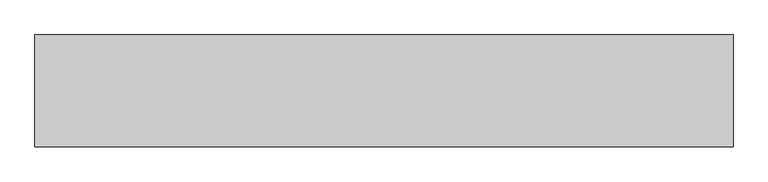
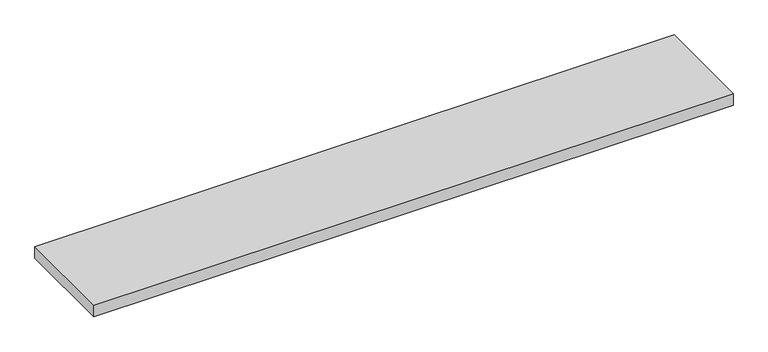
"""IFC4 building model written with IfcOpenShell, lengths in millimetres: proxy geometry, AK_アルミ足場板 AL-1.5_軽 : AK_アルミ足場板 AL-1.5_軽."""

import ifcopenshell
import ifcopenshell.guid

model = None  # the IFC model being written
_history = None  # IfcOwnerHistory: only IFC2X3 demands one
_inside = {}  # id of a spatial element -> (the spatial element, [elements in it])
_under = {}  # id of a project, library or spatial element -> (it, [spatial elements below it])
_declared = {}  # id of a project -> (the project, [libraries it declares])
_typed = {}  # id of a type object -> (the type object, [elements of that type])
_made_of = {}  # id of a material, layer set ... -> (it, [elements and type objects made of it])


def new_model(schema):
    """Start an empty IFC model of exactly this schema.

    Asked for "IFC4X3", IfcOpenShell would pick the latest addendum, in which some entities
    have other attributes; the version numbers below select the first issue.
    IFC2X3 requires an IfcOwnerHistory on every rooted entity: one is made here for all.
    """
    global model, _history
    if schema == "IFC4X3":
        model = ifcopenshell.file(schema_version=(4, 3, 0, 0))
    else:
        model = ifcopenshell.file(schema=schema)
    _inside.clear()
    _under.clear()
    _declared.clear()
    _typed.clear()
    _made_of.clear()
    _history = None
    if model.schema == "IFC2X3":
        org = make("IfcOrganization", Name="unknown")
        user = make(
            "IfcPersonAndOrganization",
            ThePerson=make("IfcPerson", FamilyName="unknown"),
            TheOrganization=org,
        )
        app = make(
            "IfcApplication",
            ApplicationDeveloper=org,
            Version="unknown",
            ApplicationFullName="unknown",
            ApplicationIdentifier="unknown",
        )
        _history = make(
            "IfcOwnerHistory",
            OwningUser=user,
            OwningApplication=app,
            ChangeAction="ADDED",
            CreationDate=0,
        )
    return model


def make(cls, **values):
    """One entity of the class cls with the attributes given. An attribute that is None is left unset."""
    return model.create_entity(
        cls, **{name: value for name, value in values.items() if value is not None}
    )


def rooted(cls, **values):
    """An entity with a GlobalId (a new one), such as an element, a storey or a relation."""
    return make(cls, GlobalId=ifcopenshell.guid.new(), OwnerHistory=_history, **values)


def si_unit(unit_type, name, prefix=None):
    """IfcSIUnit, for example si_unit("LENGTHUNIT", "METRE", prefix="MILLI")."""
    return make("IfcSIUnit", UnitType=unit_type, Prefix=prefix, Name=name)


def assignment(units):
    """IfcUnitAssignment: the units of a project."""
    return None if units is None else make("IfcUnitAssignment", Units=units)


def point(xyz):
    """IfcCartesianPoint."""
    return None if xyz is None else make("IfcCartesianPoint", Coordinates=xyz)


def direction(xyz):
    """IfcDirection."""
    return None if xyz is None else make("IfcDirection", DirectionRatios=xyz)


def frame(location, z_axis=None, x_axis=None):
    """IfcAxis2Placement3D, a coordinate frame: its origin and axes. An axis left out is left unset."""
    return make(
        "IfcAxis2Placement3D",
        Location=point(location),
        Axis=direction(z_axis),
        RefDirection=direction(x_axis),
    )


def origin():
    """The frame at (0, 0, 0) with its axes left unset."""
    return frame((0.0, 0.0, 0.0))


def origin_with_axes():
    """The frame at (0, 0, 0) with the z axis (0, 0, 1) and the x axis (1, 0, 0) written out."""
    return frame((0.0, 0.0, 0.0), z_axis=(0.0, 0.0, 1.0), x_axis=(1.0, 0.0, 0.0))


def place(relative_to, where):
    """IfcLocalPlacement: puts the frame where relative to a parent placement (None: the world)."""
    return make(
        "IfcLocalPlacement", PlacementRelTo=relative_to, RelativePlacement=where
    )


def context(
    kind, dimensions, precision=None, world=None, true_north=None, identifier=None
):
    """IfcGeometricRepresentationContext, for example the 3D "Model" context."""
    return make(
        "IfcGeometricRepresentationContext",
        ContextIdentifier=identifier,
        ContextType=kind,
        CoordinateSpaceDimension=dimensions,
        Precision=precision,
        WorldCoordinateSystem=world,
        TrueNorth=true_north,
    )


def project(units=None, contexts=None):
    """IfcProject with its units and contexts."""
    return rooted(
        "IfcProject",
        Name="project",
        RepresentationContexts=contexts,
        UnitsInContext=assignment(units),
    )


def spatial(cls, under=None, at=None, **own):
    """A site, building, storey or space (cls), placed at a placement, below another one or the project."""
    s = rooted(cls, ObjectPlacement=at, **own)
    if under is not None:
        _under.setdefault(under.id(), (under, []))[1].append(s)
    return s


def polyline(points):
    """IfcPolyline through the points."""
    return make("IfcPolyline", Points=[point(p) for p in points])


def outline(outer, holes=None, kind="AREA"):
    """IfcArbitraryClosedProfileDef: a profile drawn as a closed curve; with holes, ...WithVoids."""
    if holes is None:
        return make("IfcArbitraryClosedProfileDef", ProfileType=kind, OuterCurve=outer)
    return make(
        "IfcArbitraryProfileDefWithVoids",
        ProfileType=kind,
        OuterCurve=outer,
        InnerCurves=holes,
    )


def extrude(swept, where, along, depth):
    """IfcExtrudedAreaSolid: the profile swept, set in the frame where, extruded along a direction by depth."""
    return make(
        "IfcExtrudedAreaSolid",
        SweptArea=swept,
        Position=where,
        ExtrudedDirection=direction(along),
        Depth=depth,
    )


def shape(context_of_items, identifier, shape_type, items):
    """IfcShapeRepresentation: the items that make up one representation, for example the "Body"."""
    return make(
        "IfcShapeRepresentation",
        ContextOfItems=context_of_items,
        RepresentationIdentifier=identifier,
        RepresentationType=shape_type,
        Items=items,
    )


def source(mapping_origin, context_of_items, identifier, shape_type, items):
    """IfcRepresentationMap: a shape defined once, which mapped items show again and again."""
    return make(
        "IfcRepresentationMap",
        MappingOrigin=mapping_origin,
        MappedRepresentation=shape(context_of_items, identifier, shape_type, items),
    )


def transform(
    local_origin,
    x_axis=None,
    y_axis=None,
    z_axis=None,
    scale=None,
    scale2=None,
    scale3=None,
    uniform=True,
):
    """IfcCartesianTransformationOperator3D, or its non-uniform kind. x_axis, y_axis, z_axis: its Axis1, 2, 3."""
    if uniform:
        return make(
            "IfcCartesianTransformationOperator3D",
            Axis1=direction(x_axis),
            Axis2=direction(y_axis),
            LocalOrigin=point(local_origin),
            Scale=scale,
            Axis3=direction(z_axis),
        )
    return make(
        "IfcCartesianTransformationOperator3DnonUniform",
        Axis1=direction(x_axis),
        Axis2=direction(y_axis),
        LocalOrigin=point(local_origin),
        Scale=scale,
        Axis3=direction(z_axis),
        Scale2=scale2,
        Scale3=scale3,
    )


def mapped(mapping_source, mapping_target):
    """IfcMappedItem: shows the shape of a source again, moved by a transform."""
    return make(
        "IfcMappedItem", MappingSource=mapping_source, MappingTarget=mapping_target
    )


def made_of(thing, what):
    """Note that an element or type object is made of a material, layer set ...; save() writes the relation."""
    if what is not None:
        _made_of.setdefault(what.id(), (what, []))[1].append(thing)
    return thing


def element(
    cls,
    number,
    at=None,
    inside=None,
    cuts=None,
    type_object=None,
    material=None,
    context=None,
    identifier="Body",
    shape_type=None,
    held_by="IfcProductDefinitionShape",
    body=None,
    shapes=None,
    **own,
):
    """One element of the class cls, such as IfcWall. Its Tag is "e" and its number.

    at: its placement. inside: the storey or other place that contains it. cuts: it is an
    opening in that element (IfcRelVoidsElement). A single representation is given by context,
    identifier, shape_type and body (its items); several are given by shapes. held_by: the class
    of the entity that holds the representations. save() writes the other relations.
    """
    e = rooted(cls, Tag="e%d" % number, ObjectPlacement=at, **own)
    if body is not None:
        shapes = [shape(context, identifier, shape_type, body)]
    if shapes is not None:
        e.Representation = make(held_by, Representations=shapes)
    if inside is not None:
        _inside.setdefault(inside.id(), (inside, []))[1].append(e)
    if cuts is not None:
        rooted(
            "IfcRelVoidsElement", RelatingBuildingElement=cuts, RelatedOpeningElement=e
        )
    if type_object is not None:
        _typed.setdefault(type_object.id(), (type_object, []))[1].append(e)
    return made_of(e, material)


def aggregate(whole, parts):
    """IfcRelAggregates: a whole, such as a stair, and the parts it consists of."""
    return rooted("IfcRelAggregates", RelatingObject=whole, RelatedObjects=parts)


def save(model, path):
    """Write the relations noted so far, then the file.

    IfcRelAggregates (storeys below a building ...), IfcRelContainedInSpatialStructure (elements
    in a storey), IfcRelDefinesByType, IfcRelAssociatesMaterial and IfcRelDeclares: one each for
    every whole, place, type object, material and project.
    """
    for whole, parts in _under.values():
        aggregate(whole, parts)
    for where, things in _inside.values():
        rooted(
            "IfcRelContainedInSpatialStructure",
            RelatedElements=things,
            RelatingStructure=where,
        )
    for kind, things in _typed.values():
        rooted("IfcRelDefinesByType", RelatedObjects=things, RelatingType=kind)
    for what, things in _made_of.values():
        rooted("IfcRelAssociatesMaterial", RelatedObjects=things, RelatingMaterial=what)
    for by, libraries in _declared.values():
        rooted("IfcRelDeclares", RelatingContext=by, RelatedDefinitions=libraries)
    model.write(path)


def generic_models_31d243a7(model_context):
    return source(origin(), model_context, "Body", "SweptSolid", [
        extrude(outline(polyline([(1500.0, 240.0), (1500.0, 0.0157988), (0.0, 0.0157988), (0.0, 240.0), (1500.0, 240.0)])), origin_with_axes(), (0.0, 0.0, 1.0), 29.0),
    ])


if __name__ == "__main__":
    model = new_model("IFC4")
    model_context = context("Model", 3, world=origin())
    ifc_project = project(units=[si_unit("LENGTHUNIT", "METRE", prefix="MILLI")], contexts=[model_context])
    site = spatial("IfcSite", under=ifc_project)
    building = spatial("IfcBuilding", under=site)
    placement = place(None, origin())
    generic_models_shape = generic_models_31d243a7(model_context)
    element("IfcBuildingElementProxy", 1, Name="AK_アルミ足場板 AL-1.5_軽 : AK_アルミ足場板 AL-1.5_軽", ObjectType="AK_アルミ足場板 AL-1.5_軽 : AK_アルミ足場板 AL-1.5_軽", at=placement, inside=building, context=model_context, shape_type="MappedRepresentation", body=[
        mapped(generic_models_shape, transform((0.0, 0.0, 0.0), x_axis=(1.0, 0.0, 0.0), y_axis=(0.0, 1.0, 0.0), z_axis=(0.0, 0.0, 1.0))),
    ])
    save(model, "model.ifc")
